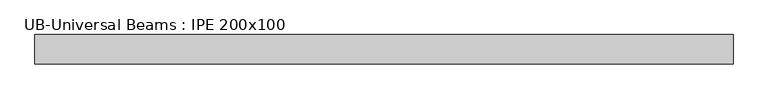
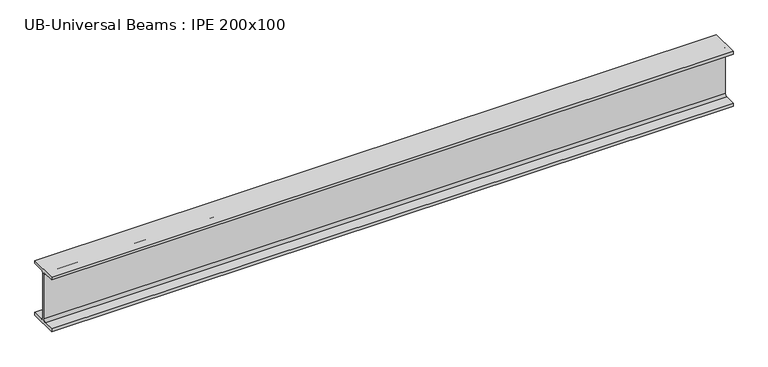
"""IFC4 building model written with IfcOpenShell, lengths in millimetres: beam geometry, UB-Universal Beams : IPE 200x100."""

from ifc_helpers import new_model, si_unit, point, frame, frame_2d, origin, place, context, project, spatial, polyline, circle_curve, trimmed, segment, composite_curve, outline, extrude, source, transform, mapped, element, save


def ub_universal_beams_ipe_200x100_c7fdf681(model_context):
    return source(origin(), model_context, "Body", "SweptSolid", [
        extrude(outline(composite_curve([segment(polyline([(50.0, -89.8), (50.0, -100.0), (-50.0, -100.0), (-50.0, -89.8), (-11.9, -89.8)]), True, "CONTINUOUS"), segment(trimmed(circle_curve(frame_2d((-11.9, -80.9)), 8.9), [point((-11.9, -89.8))], [point((-3.0, -80.9))], True, "CARTESIAN"), True, "CONTINUOUS"), segment(polyline([(-3.0, -80.9), (-3.0, 80.9)]), True, "CONTINUOUS"), segment(trimmed(circle_curve(frame_2d((-11.9, 80.9)), 8.9), [point((-3.0, 80.9))], [point((-11.9, 89.8))], True, "CARTESIAN"), True, "CONTINUOUS"), segment(polyline([(-11.9, 89.8), (-50.0, 89.8), (-50.0, 100.0), (50.0, 100.0), (50.0, 89.8), (11.9, 89.8)]), True, "CONTINUOUS"), segment(trimmed(circle_curve(frame_2d((11.9, 80.9)), 8.9), [point((11.9, 89.8))], [point((3.0, 80.9))], True, "CARTESIAN"), True, "CONTINUOUS"), segment(polyline([(3.0, 80.9), (3.0, -80.9)]), True, "CONTINUOUS"), segment(trimmed(circle_curve(frame_2d((11.9, -80.9)), 8.9), [point((3.0, -80.9))], [point((11.9, -89.8))], True, "CARTESIAN"), True, "CONTINUOUS"), segment(polyline([(11.9, -89.8), (50.0, -89.8)]), True, "CONTINUOUS")], self_intersect=False)), frame((-1149.2, 0.0, 0.0), z_axis=(1.0, 0.0, 0.0), x_axis=(0.0, 1.0, 0.0)), (0.0, 0.0, 1.0), 2361.1),
    ])


if __name__ == "__main__":
    model = new_model("IFC4")
    model_context = context("Model", 3, world=origin())
    ifc_project = project(units=[si_unit("LENGTHUNIT", "METRE", prefix="MILLI")], contexts=[model_context])
    site = spatial("IfcSite", under=ifc_project)
    building = spatial("IfcBuilding", under=site)
    placement = place(None, origin())
    ub_universal_beams_ipe_200x100_shape = ub_universal_beams_ipe_200x100_c7fdf681(model_context)
    element("IfcBeam", 1, ObjectType="UB-Universal Beams : IPE 200x100", at=placement, inside=building, context=model_context, shape_type="MappedRepresentation", body=[
        mapped(ub_universal_beams_ipe_200x100_shape, transform((0.0, 0.0, 0.0), x_axis=(1.0, 0.0, 0.0), y_axis=(0.0, 1.0, 0.0), z_axis=(0.0, 0.0, 1.0))),
    ])
    save(model, "model.ifc")
